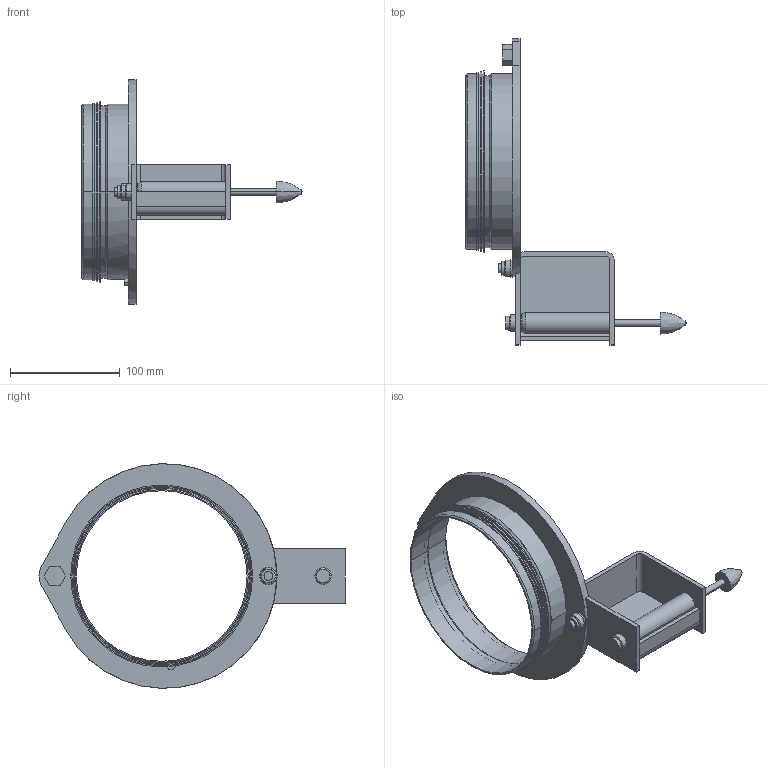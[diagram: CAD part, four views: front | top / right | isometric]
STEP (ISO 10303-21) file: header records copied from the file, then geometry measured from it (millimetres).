
FILE_DESCRIPTION((''),'2;1');
FILE_NAME('APS_415','2022-05-25T14:57:17',('Tomas Bellgran'),(''),'CREO PARAMETRIC BY PTC INC, 2018260','CREO PARAMETRIC BY PTC INC, 2018260','');
FILE_SCHEMA(('AUTOMOTIVE_DESIGN { 1 0 10303 214 1 1 1 1 }'));
Length unit declared in the file: millimetre
Products named in the file (1): APS_415
Bounding box: 200.93 x 279.34 x 204.92 mm (x, y, z)
Volume: 229340.9 mm3; surface area: 132885.8 mm2
Topology: 1 solids, 1 shells, 118 faces, 280 edges, 177 vertices
Faces by surface type: plane 50, cylinder 48, cone 12, torus 4, bspline 2, sphere 2
Entity records: 5162 total; most frequent: DIRECTION 647, CARTESIAN_POINT 638, ORIENTED_EDGE 556, PRESENTATION_STYLE_ASSIGNMENT 325, STYLED_ITEM 279, CURVE_STYLE 278, EDGE_CURVE 278, AXIS2_PLACEMENT_3D 245
